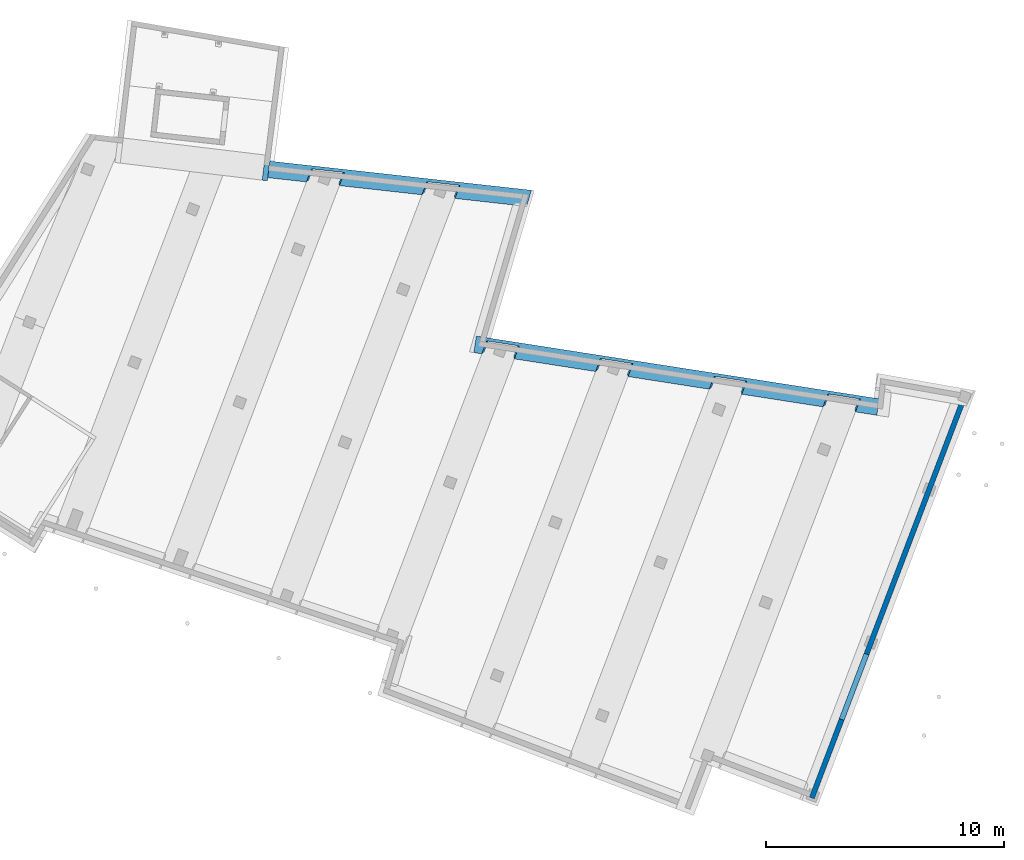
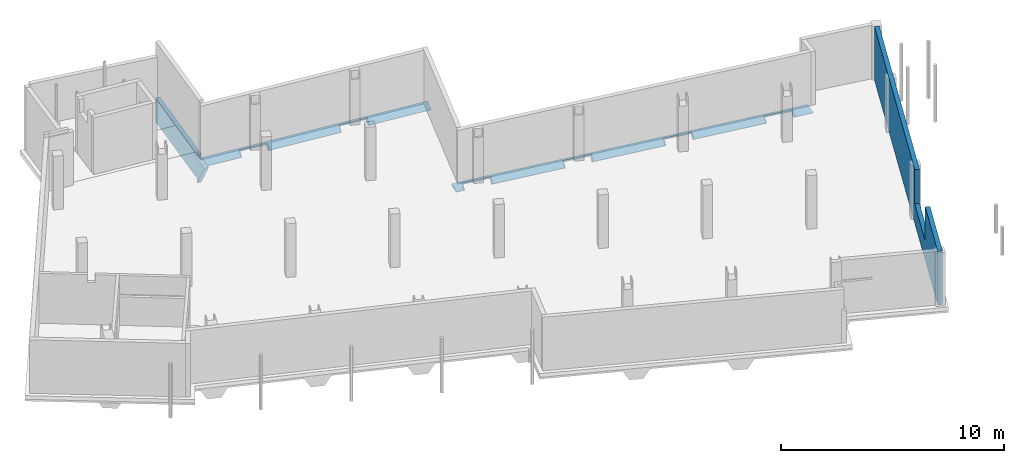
# One storey, part 11 of 11: 2 beams, 2 walls.
"""IFC2X3 building model written with IfcOpenShell, lengths in millimetres."""

from ifc_helpers import new_model, entity, si_unit, converted_unit, derived_unit, direction, frame, origin, place, context, subcontext, project, spatial, faceted_brep, material, layer, layer_set, type_object, element, save


model = new_model("IFC2X3")

# Units and contexts
model_context = context("Model", 3, precision=0.01, world=origin(), true_north=direction((6.123233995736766e-17, 1.0)))
body_context = subcontext(model_context, "Body", "Model", "MODEL_VIEW")
ifc_project = project(units=[si_unit("LENGTHUNIT", "METRE", prefix="MILLI"), converted_unit("PLANEANGLEUNIT", "DEGREE", entity("IfcPlaneAngleMeasure", 0.017453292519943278), si_unit("PLANEANGLEUNIT", "RADIAN"), dimensions=[0, 0, 0, 0, 0, 0, 0]), si_unit("AREAUNIT", "SQUARE_METRE"), derived_unit("THERMALTRANSMITTANCEUNIT", [(si_unit("MASSUNIT", "GRAM", prefix="KILO"), 1), (si_unit("THERMODYNAMICTEMPERATUREUNIT", "KELVIN"), -1), (si_unit("TIMEUNIT", "SECOND"), -3)])], contexts=[model_context])

# Site, building, storey
site_placement = place(None, frame((-72937.88054949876, 11621.45624098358, 0.0), z_axis=(0.0, 0.0, 1.0), x_axis=(0.9346418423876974, -0.35559053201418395, 0.0)))
site = spatial("IfcSite", under=ifc_project, at=site_placement, Name="Default", CompositionType="ELEMENT")
building_placement = place(site_placement, origin())
building = spatial("IfcBuilding", under=site, at=building_placement, CompositionType="ELEMENT")
storey_placement = place(building_placement, frame((0.0, 0.0, -3160.0)))
storey = spatial("IfcBuildingStorey", under=building, at=storey_placement, Name="-1 kelder", CompositionType="ELEMENT", Elevation=-3160.0)

# Beams
ifc_material = material(Name="beton_gewapend_ihw")
beam_type = type_object("IfcBeamType", Name="650x600mm", PredefinedType="BEAM", material=ifc_material)
beam_1_placement = place(storey_placement, frame((22036.79100319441, 31125.45151352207, -300.0), z_axis=(0.0, 0.0, 1.0), x_axis=(-0.968232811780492, -0.25005043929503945, 0.0)))
element("IfcBeam", 1, at=beam_1_placement, inside=storey, type_object=beam_type, material=ifc_material, Name="16.12_Beton balk", ObjectType="i.h.w.g. versterkte betonnen strook", context=body_context, shape_type="Brep", body=[
    faceted_brep([(-11106.400881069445, 41.092331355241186, 100.0), (-10516.988611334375, 41.092331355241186, 100.0), (-8074.43596847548, 41.09233135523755, 100.0), (-8040.014196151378, -58.907668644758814, 0.0), (-10636.284168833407, -58.907668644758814, 0.0), (-11124.135950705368, -58.90766864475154, 0.0), (-6887.595466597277, -528.9076686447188, 0.0), (-6766.215871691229, -58.90766864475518, 0.0), (-3154.825486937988, -58.90766864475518, 0.0), (-3276.205081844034, -528.9076686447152, 0.0), (-2002.4067573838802, -528.9076686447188, 0.0), (-1881.0271624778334, -58.907668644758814, 0.0), (-160.6942672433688, -58.90766864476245, 0.0), (-170.16584234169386, -658.9076686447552, 0.0), (-11230.546368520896, -658.9076686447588, 0.0), (-8161.393791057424, -528.9076686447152, 0.0), (-11230.546368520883, -658.9076686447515, 100.0), (-170.16584234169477, -658.9076686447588, 100.0), (-159.1156713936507, 41.09233135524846, 100.0), (-1794.9544987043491, 41.092331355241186, 100.0), (-1942.15953933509, -528.9076686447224, 100.0), (-3336.452299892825, -528.9076686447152, 100.0), (-3189.2472592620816, 41.09233135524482, 100.0), (-6680.14320791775, 41.09233135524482, 100.0), (-6827.348248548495, -528.9076686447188, 100.0), (-8221.641009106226, -528.9076686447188, 100.0)], [[[0, 1, 2, 3, 4, 5]], [[6, 7, 8, 9, 10, 11, 12, 13, 14, 5, 4, 3, 15]], [[16, 14, 13, 17]], [[2, 1, 0, 16, 17, 18, 19, 20, 21, 22, 23, 24, 25]], [[6, 24, 23, 7]], [[25, 15, 3, 2]], [[24, 6, 15, 25]], [[7, 23, 22, 8]], [[10, 20, 19, 11]], [[21, 9, 8, 22]], [[20, 10, 9, 21]], [[11, 19, 18, 12]], [[13, 12, 18, 17]], [[5, 14, 16, 0]]]),
])
beam_2_placement = place(storey_placement, frame((32762.54947547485, 27333.626165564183, -300.0), z_axis=(0.0, 0.0, 1.0), x_axis=(-0.9781855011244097, -0.20773330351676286, 0.0)))
element("IfcBeam", 2, at=beam_2_placement, inside=storey, type_object=beam_type, material=ifc_material, Name="16.12_Beton balk", ObjectType="i.h.w.g. versterkte betonnen strook", context=body_context, shape_type="Brep", body=[
    faceted_brep([(-17282.241193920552, -69.79281222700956, 0.0), (-17282.241193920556, -669.7928122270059, 0.0), (-17282.241193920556, -669.7928122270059, 100.0), (-17282.24119392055, 30.207187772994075, 100.0), (-142.24119392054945, -669.7928122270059, 0.0), (-142.24119392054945, -605.8940116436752, 0.0), (-142.24119392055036, -69.79281222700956, 0.0), (-142.24119392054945, 30.207187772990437, 100.0), (-142.24119392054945, -669.7928122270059, 100.0), (-142.24119392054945, -669.7928122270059, 8.413360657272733), (-16373.351953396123, 30.207187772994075, 100.0), (-16334.954325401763, -69.79281222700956, 0.0), (-16434.766326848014, -539.7928122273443, 0.0), (-15173.928447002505, -539.7928122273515, 0.0), (-15074.116445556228, -69.7928122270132, 0.0), (-11499.470672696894, -69.79281222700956, 0.0), (-11599.282674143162, -539.7928122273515, 0.0), (-10338.444794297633, -539.7928122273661, 0.0), (-10238.63279285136, -69.7928122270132, 0.0), (-6663.987019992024, -69.79281222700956, 0.0), (-6763.799021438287, -539.7928122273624, 0.0), (-5502.961141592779, -539.7928122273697, 0.0), (-5403.149140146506, -69.79281222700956, 0.0), (-1828.5033672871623, -69.79281222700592, 0.0), (-1928.3153687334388, -539.7928122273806, 0.0), (-667.4774888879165, -539.7928122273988, 0.0), (-567.6654874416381, -69.7928122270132, 0.0), (-150.7284445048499, -669.7928122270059, 0.0), (-755.9979150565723, -669.7928122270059, 0.0), (-17054.58344465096, -669.7928122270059, 0.0), (-755.9979150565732, -669.7928122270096, 100.0), (-17054.583444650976, -669.7928122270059, 100.0), (-486.7946673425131, 30.207187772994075, 100.0), (-607.8432648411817, -539.7928122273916, 100.0), (-1987.9495927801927, -539.7928122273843, 100.0), (-1866.900995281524, 30.207187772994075, 100.0), (-5322.278320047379, 30.207187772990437, 100.0), (-5443.3269175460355, -539.7928122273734, 100.0), (-6823.433245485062, -539.7928122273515, 100.0), (-6702.384647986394, 30.207187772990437, 100.0), (-10157.761972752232, 30.207187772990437, 100.0), (-10278.81057025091, -539.7928122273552, 100.0), (-11658.91689818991, -539.7928122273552, 100.0), (-11537.868300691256, 30.2071877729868, 100.0), (-14993.245625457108, 30.207187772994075, 100.0), (-15114.294222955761, -539.7928122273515, 100.0), (-16494.40055089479, -539.7928122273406, 100.0)], [[[0, 1, 2, 3]], [[4, 5, 6, 7, 8, 9]], [[0, 3, 10, 11]], [[1, 0, 11, 12, 13, 14, 15, 16, 17, 18, 19, 20, 21, 22, 23, 24, 25, 26, 6, 5, 4, 27, 28, 29]], [[1, 29, 28, 27, 4, 9, 8, 30, 31, 2]], [[2, 31, 30, 8, 7, 32, 33, 34, 35, 36, 37, 38, 39, 40, 41, 42, 43, 44, 45, 46, 10, 3]], [[25, 33, 32, 26]], [[34, 24, 23, 35]], [[33, 25, 24, 34]], [[21, 37, 36, 22]], [[38, 20, 19, 39]], [[37, 21, 20, 38]], [[35, 23, 22, 36]], [[17, 41, 40, 18]], [[42, 16, 15, 43]], [[41, 17, 16, 42]], [[39, 19, 18, 40]], [[13, 45, 44, 14]], [[45, 13, 12, 46]], [[32, 7, 6, 26]], [[46, 12, 11, 10]], [[43, 15, 14, 44]]]),
])

# Walls
ifc_layer = layer(ifc_material, 220.0)
ifc_layer_set = layer_set([ifc_layer], Name="Basic Wall:22.21_WA_Beton 220mm")
wall_type = type_object("IfcWallType", Name="22.21_muur", PredefinedType="STANDARD", material=ifc_layer_set)
wall_1_placement = place(storey_placement, frame((52840.0, 32706.26920149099, 0.0), z_axis=(0.0, 0.0, 1.0), x_axis=(0.0, -1.0, 0.0)))
element("IfcWall", 3, at=wall_1_placement, inside=storey, type_object=wall_type, Name="Basic Wall:22.21_WA_Beton 220mm", ObjectType="Basic Wall:22.21_WA_Beton 220mm", context=body_context, shape_type="Brep", body=[
    faceted_brep([(0.0, -110.0, 0.0), (3721.2692014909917, -110.0, 0.0), (4171.269201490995, -110.0, 0.0), (10601.269201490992, -110.0, 0.0), (11051.269201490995, -110.0, 0.0), (17481.26920149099, -110.0, 0.0), (17596.26920149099, -110.0, 0.0), (17816.26920149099, -110.0, 0.0), (17816.26920149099, -110.0, 2930.0), (17596.269201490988, -110.0, 2930.0), (17481.26920149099, -110.0, 2930.0), (14286.26920149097, -110.0, 2930.0), (14286.26920149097, -110.0, 1060.0), (11346.269201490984, -110.0, 1060.0), (11346.269201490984, -110.0, 2930.0), (11051.269201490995, -110.0, 2930.0), (10601.269201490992, -110.0, 2930.0), (4171.269201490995, -110.0, 2930.0), (3721.2692014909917, -110.0, 2930.0), (0.0, -110.0, 2930.0), (17816.26920149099, 110.0, 0.0), (17481.26920149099, 110.0, 0.0), (11051.269201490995, 110.0, 0.0), (10601.269201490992, 110.0, 0.0), (4171.269201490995, 110.0, 0.0), (3721.2692014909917, 110.0, 0.0), (0.0, 110.0, 0.0), (0.0, 110.0, 2730.0), (0.0, 110.0, 2930.0), (916.2692014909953, 110.0, 2930.0), (3066.2692014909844, 110.0, 2930.0), (3721.269201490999, 110.0, 2930.0), (4171.269201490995, 110.0, 2930.0), (10601.269201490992, 110.0, 2930.0), (11051.269201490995, 110.0, 2930.0), (11346.269201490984, 110.0, 2930.0), (11346.269201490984, 110.0, 1060.0), (14286.26920149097, 110.0, 1060.0), (14286.26920149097, 110.0, 2730.0), (14286.26920149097, 110.0, 2930.0), (17481.269201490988, 110.0, 2930.0), (17816.26920149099, 110.0, 2930.0)], [[[0, 1, 2, 3, 4, 5, 6, 7, 8, 9, 10, 11, 12, 13, 14, 15, 16, 17, 18, 19]], [[20, 21, 22, 23, 24, 25, 26, 27, 28, 29, 30, 31, 32, 33, 34, 35, 36, 37, 38, 39, 40, 41]], [[7, 6, 5, 4, 3, 2, 1, 0, 26, 25, 24, 23, 22, 21, 20]], [[26, 0, 19, 28, 27]], [[7, 20, 41, 8]], [[11, 10, 9, 8, 41, 40, 39]], [[36, 13, 12, 37]], [[13, 36, 35, 14]], [[37, 12, 11, 39, 38]], [[19, 18, 17, 16, 15, 14, 35, 34, 33, 32, 31, 30, 29, 28]]]),
])
wall_2_placement = place(storey_placement, frame((22125.450902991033, 30970.221418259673, -1550.0), z_axis=(0.0, 0.0, 1.0), x_axis=(-0.23473671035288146, 0.9720589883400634, 0.0)))
element("IfcWall", 4, at=wall_2_placement, inside=storey, type_object=wall_type, Name="Basic Wall:22.21_WA_Beton 220mm", ObjectType="Basic Wall:22.21_WA_Beton 220mm", context=body_context, shape_type="Brep", body=[
    faceted_brep([(5666.027582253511, -110.0, 1550.0), (833.2160241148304, -110.0, 1550.0), (833.216024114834, -110.0, 1350.0), (133.1288107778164, -110.0, 1350.0), (1.5930288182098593, -110.0, 1350.0), (845.1887690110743, -110.0, 0.0), (845.188769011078, -110.0, 250.0), (5666.027582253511, -110.0, 250.0), (0.0, 110.0, 1350.0), (1063.6015077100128, 110.0, 1350.0), (1063.6015077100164, 110.0, 1550.0), (5675.758522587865, 110.0, 1550.0), (5675.758522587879, 110.0, 250.0), (5455.543420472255, 110.0, 250.0), (1063.6015077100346, 110.0, 250.0), (843.5957401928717, 110.0, 250.0), (843.5957401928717, 110.0, 0.0), (1064.3980221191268, 0.0, 1550.0), (831.4795686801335, 0.0, 1550.0), (831.4795686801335, 0.0, 1350.0), (1064.3980221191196, 0.0, 1350.0)], [[[0, 1, 2, 3, 4, 5, 6, 7]], [[8, 9, 10, 11, 12, 13, 14, 15, 16]], [[0, 11, 10, 17, 18, 1]], [[11, 0, 7, 12]], [[19, 20, 9, 8, 4, 3, 2]], [[20, 17, 10, 9]], [[20, 19, 18, 17]], [[18, 19, 2, 1]], [[5, 4, 8, 16]], [[6, 15, 14, 13, 12, 7]], [[15, 6, 5, 16]]]),
])

save(model, "model.ifc")
